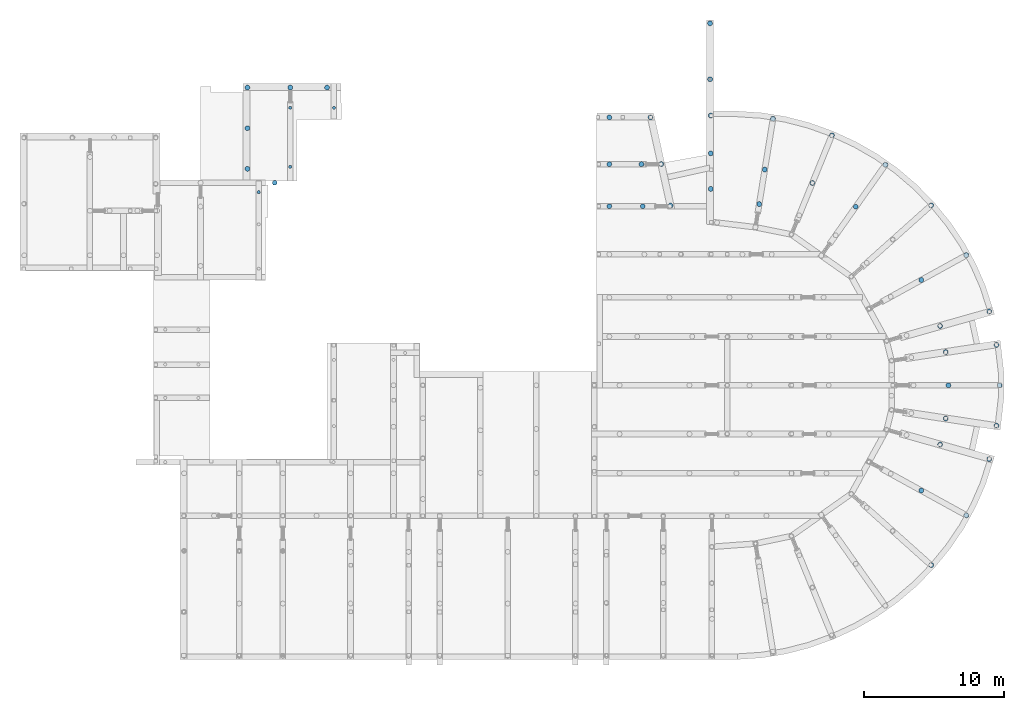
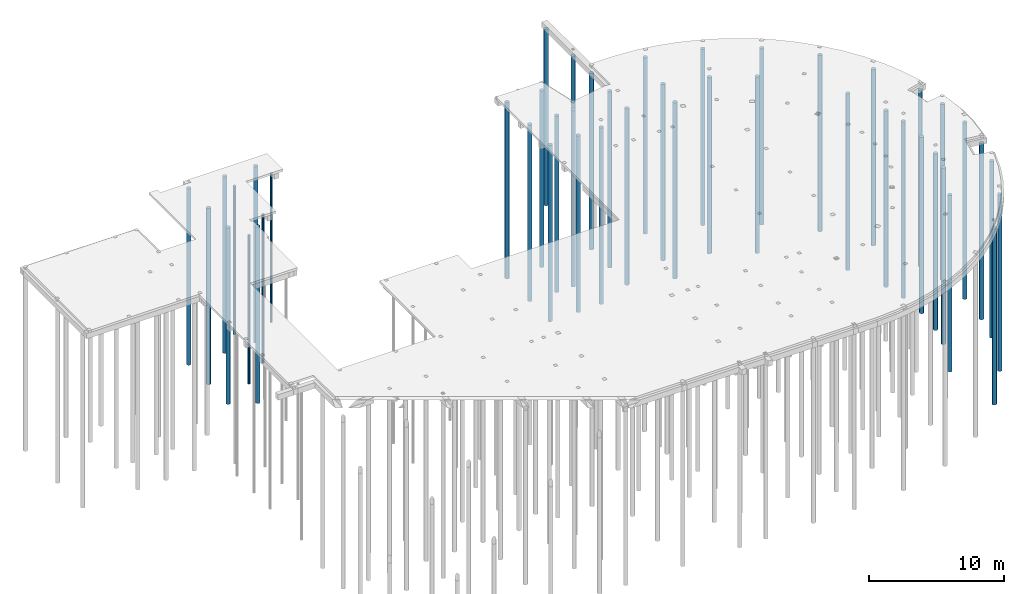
# One storey, part 3 of 22: 46 piles.
"""IFC2X3 building model written with IfcOpenShell, lengths in millimetres."""

from ifc_helpers import new_model, si_unit, frame, origin_with_axes, origin_2d_with_axis, place, context, subcontext, project, spatial, circle, extrude, clip, halfspace, material, element, save


model = new_model("IFC2X3")

# Units and contexts
model_context = context("Model", 3, precision=1e-05, world=origin_with_axes())
body_context = subcontext(model_context, "Body", "Model", "MODEL_VIEW")
ifc_project = project(units=[si_unit("LENGTHUNIT", "METRE", prefix="MILLI"), si_unit("AREAUNIT", "SQUARE_METRE"), si_unit("VOLUMEUNIT", "CUBIC_METRE"), si_unit("MASSUNIT", "GRAM", prefix="KILO"), si_unit("TIMEUNIT", "SECOND"), si_unit("PLANEANGLEUNIT", "RADIAN"), si_unit("SOLIDANGLEUNIT", "STERADIAN"), si_unit("THERMODYNAMICTEMPERATUREUNIT", "DEGREE_CELSIUS"), si_unit("LUMINOUSINTENSITYUNIT", "LUMEN")], contexts=[model_context])

# Site, building, storey
site_placement = place(None, origin_with_axes())
site = spatial("IfcSite", under=ifc_project, at=site_placement, Name="Undefined", CompositionType="ELEMENT")
building_placement = place(site_placement, origin_with_axes())
building = spatial("IfcBuilding", under=site, at=building_placement, Name="Undefined", CompositionType="ELEMENT")
storey_placement = place(building_placement, origin_with_axes())
storey = spatial("IfcBuildingStorey", under=building, at=storey_placement, Name="Undefined", CompositionType="ELEMENT", Elevation=0.0)

# Piles
ifc_material = material(Name="CONCRETE/C28/35(prefab)")
pile_1_placement = place(storey_placement, frame((16095.0759531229, 35117.0884487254, -770.0), z_axis=(0.0, 1.0, 0.0), x_axis=(0.0, 0.0, -1.0)))
element("IfcPile", 1, at=pile_1_placement, inside=storey, material=ifc_material, Name="FUNDERINGSPAAL", ConstructionType="NOTDEFINED", PredefinedType="NOTDEFINED", context=body_context, shape_type="Clipping", body=[
    clip(extrude(circle(Radius=175.0, at=origin_2d_with_axis()), frame((15900.0, 0.0, 0.0), z_axis=(-1.0, 0.0, 0.0), x_axis=(0.0, -1.0, 0.0)), (0.0, 0.0, 1.0), 15900.0), halfspace(frame((0.0, 175.0000000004, -175.000000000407), z_axis=(-1.0, 0.0, 0.0), x_axis=(0.0, 0.0, 1.0)), False)),
])
for number, where, z_axis, x_axis in (
    (2, (19159.1586668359, 39488.7542724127, -770.0), (0.0, 1.0, 0.0), (0.0, 0.0, -1.0)),
    (3, (22291.596845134, 39488.7554560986, -770.0), (0.0, 1.0, 0.0), (0.0, 0.0, -1.0)),
):
    element("IfcPile", number, at=place(storey_placement, frame(where, z_axis=z_axis, x_axis=x_axis)), inside=storey, material=ifc_material, Name="FUNDERINGSPAAL", ConstructionType="NOTDEFINED", PredefinedType="NOTDEFINED", context=body_context, shape_type="Clipping", body=[
        clip(extrude(circle(Radius=109.5, at=origin_2d_with_axis()), frame((13400.0, 0.0, 0.0), z_axis=(-1.0, 0.0, 0.0), x_axis=(0.0, -1.0, 0.0)), (0.0, 0.0, 1.0), 13400.0), halfspace(frame((0.0, 109.500000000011, -109.500000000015), z_axis=(-1.0, 0.0, 0.0), x_axis=(0.0, 0.0, 1.0)), False)),
    ])
for number, where, z_axis, x_axis in (
    (4, (16095.075551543, 38027.0884487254, -770.0), (0.0, 1.0, 0.0), (0.0, 0.0, -1.0)),
    (5, (16095.0751497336, 40938.7504943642, -770.0), (0.0, 1.0, 0.0), (0.0, 0.0, -1.0)),
    (6, (19159.1590581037, 40938.7147485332, -770.0), (-0.999999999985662, 5.35500000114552e-06, 0.0), (0.0, 0.0, -1.0)),
):
    element("IfcPile", number, at=place(storey_placement, frame(where, z_axis=z_axis, x_axis=x_axis)), inside=storey, material=ifc_material, Name="FUNDERINGSPAAL", ConstructionType="NOTDEFINED", PredefinedType="NOTDEFINED", context=body_context, shape_type="Clipping", body=[
        clip(extrude(circle(Radius=175.0, at=origin_2d_with_axis()), frame((15900.0, 0.0, 0.0), z_axis=(-1.0, 0.0, 0.0), x_axis=(0.0, -1.0, 0.0)), (0.0, 0.0, 1.0), 15900.0), halfspace(frame((0.0, 175.0000000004, -175.000000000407), z_axis=(-1.0, 0.0, 0.0), x_axis=(0.0, 0.0, 1.0)), False)),
    ])
pile_2_placement = place(storey_placement, frame((19159.1600193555, 35262.1307373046, -770.0), z_axis=(0.0, 1.0, 0.0), x_axis=(0.0, 0.0, -1.0)))
element("IfcPile", 7, at=pile_2_placement, inside=storey, material=ifc_material, Name="FUNDERINGSPAAL", ConstructionType="NOTDEFINED", PredefinedType="NOTDEFINED", context=body_context, shape_type="Clipping", body=[
    clip(extrude(circle(Radius=109.5, at=origin_2d_with_axis()), frame((13400.0, 0.0, 0.0), z_axis=(-1.0, 0.0, 0.0), x_axis=(0.0, -1.0, 0.0)), (0.0, 0.0, 1.0), 13400.0), halfspace(frame((0.0, 109.500000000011, -109.500000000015), z_axis=(-1.0, 0.0, 0.0), x_axis=(0.0, 0.0, 1.0)), False)),
])
pile_3_placement = place(storey_placement, frame((21799.6590580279, 40938.7006086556, -770.0), z_axis=(-0.999999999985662, 5.35500000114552e-06, 0.0), x_axis=(0.0, 0.0, -1.0)))
element("IfcPile", 8, at=pile_3_placement, inside=storey, material=ifc_material, Name="FUNDERINGSPAAL", ConstructionType="NOTDEFINED", PredefinedType="NOTDEFINED", context=body_context, shape_type="Clipping", body=[
    clip(extrude(circle(Radius=175.0, at=origin_2d_with_axis()), frame((15900.0, 0.0, 0.0), z_axis=(-1.0, 0.0, 0.0), x_axis=(0.0, -1.0, 0.0)), (0.0, 0.0, 1.0), 15900.0), halfspace(frame((0.0, 175.0000000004, -175.000000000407), z_axis=(-1.0, 0.0, 0.0), x_axis=(0.0, 0.0, 1.0)), False)),
])
pile_4_placement = place(storey_placement, frame((16906.9429795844, 33447.108072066, -770.0), z_axis=(0.0, 1.0, 0.0), x_axis=(0.0, 0.0, -1.0)))
element("IfcPile", 9, at=pile_4_placement, inside=storey, material=ifc_material, Name="FUNDERINGSPAAL", ConstructionType="NOTDEFINED", PredefinedType="NOTDEFINED", context=body_context, shape_type="Clipping", body=[
    clip(extrude(circle(Radius=109.5, at=origin_2d_with_axis()), frame((13400.0, 0.0, 0.0), z_axis=(-1.0, 0.0, 0.0), x_axis=(0.0, -1.0, 0.0)), (0.0, 0.0, 1.0), 13400.0), halfspace(frame((0.0, 109.500000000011, -109.500000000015), z_axis=(-1.0, 0.0, 0.0), x_axis=(0.0, 0.0, 1.0)), False)),
])
for number, where, z_axis, x_axis in (
    (10, (18049.7635959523, 34117.1156717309, -770.0), (-0.999999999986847, -5.12899999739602e-06, 0.0), (0.0, 0.0, -1.0)),
    (11, (65067.522338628, 6735.81377767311, -770.000000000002), (0.700439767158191, 0.713711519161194, 0.0), (0.0, 0.0, -1.0)),
    (12, (67577.4497804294, 10303.4870565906, -770.0), (0.481227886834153, 0.876595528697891, 0.0), (0.0, 0.0, -1.0)),
    (13, (69219.0399387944, 14325.0911946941, -770.0), (0.303991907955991, 0.952674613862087, 0.0), (0.0, 0.0, -1.0)),
    (14, (69738.8478505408, 16728.3697297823, -770.0), (0.115783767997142, 0.993274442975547, 0.0), (0.0, 0.0, -1.0)),
    (15, (69977.02269106, 19616.0260782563, -770.0), (-0.0001970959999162, 0.999999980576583, 0.0), (0.0, 0.0, -1.0)),
    (16, (69738.928843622, 22499.6704870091, -770.0), (-0.11613566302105, 0.993233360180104, 0.0), (0.0, 0.0, -1.0)),
    (17, (69220.5267910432, 24902.4491857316, -770.0), (0.303991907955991, -0.952674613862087, 0.0), (0.0, 0.0, -1.0)),
    (18, (67570.2559236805, 28941.8171349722, -770.0), (0.481227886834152, -0.876595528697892, 0.0), (0.0, 0.0, -1.0)),
    (19, (65061.2828468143, 32502.7439382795, -770.000000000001), (0.700439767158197, -0.713711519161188, 0.0), (0.0, 0.0, -1.0)),
    (20, (61781.6678489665, 35406.2622827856, -770.000000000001), (0.817057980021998, -0.576555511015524, 0.0), (0.0, 0.0, -1.0)),
    (21, (57958.2647922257, 37517.7727050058, -769.999999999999), (0.941071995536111, -0.338206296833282, 0.0), (0.0, 0.0, -1.0)),
    (22, (53733.7545727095, 38700.740768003, -770.000000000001), (0.987436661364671, -0.158015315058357, 0.0), (0.0, 0.0, -1.0)),
    (23, (65701.8610218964, 15372.2186860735, -770.0), (0.962245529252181, -0.272182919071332, 0.0), (0.0, 0.0, -1.0)),
    (24, (66109.6728436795, 17241.090100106, -770.0), (-0.988598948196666, 0.150572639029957, 0.0), (0.0, 0.0, -1.0)),
    (25, (66105.6214595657, 21995.7872382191, -770.0), (-0.988598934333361, -0.150572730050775, 0.0), (0.0, 0.0, -1.0)),
    (26, (65703.932205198, 23860.5671734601, -770.0), (0.962245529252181, 0.27218291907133, 0.0), (0.0, 0.0, -1.0)),
    (27, (56555.4299697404, 34102.9844903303, -770.0), (-0.377505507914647, -0.92600733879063, 0.0), (0.0, 0.0, -1.0)),
    (28, (53145.2603416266, 35060.7197424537, -770.0), (-0.159664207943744, -0.987171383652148, 0.0), (0.0, 0.0, -1.0)),
    (29, (52746.1601185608, 32593.1640861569, -770.0), (-0.159664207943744, -0.987171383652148, 0.0), (0.0, 0.0, -1.0)),
    (30, (59662.9471217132, 32402.5675933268, -770.0), (-0.576253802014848, -0.817270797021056, 0.0), (0.0, 0.0, -1.0)),
    (31, (64355.7413582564, 27156.2745186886, -770.0), (-0.876201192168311, -0.481945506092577, 0.0), (0.0, 0.0, -1.0)),
    (32, (66292.6188971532, 19616.0599047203, -770.0), (-1.0, 0.0, 0.0), (0.0, 0.0, -1.0)),
    (33, (64351.4748927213, 12077.9865735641, -770.0), (-0.876224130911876, 0.481903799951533, 0.0), (0.0, 0.0, -1.0)),
    (34, (42013.0004882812, 32438.742046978, -770.0), (-1.0, 0.0, 0.0), (0.0, 0.0, -1.0)),
    (35, (42013.0004882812, 35452.0701223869, -770.0), (-1.0, 0.0, 0.0), (0.0, 0.0, -1.0)),
    (36, (42012.9995603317, 38802.0689878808, -770.0), (-1.0, 0.0, 0.0), (0.0, 0.0, -1.0)),
    (37, (44963.8387516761, 38802.0698052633, -770.0), (-1.0, 0.0, 0.0), (0.0, 0.0, -1.0)),
    (38, (45734.271711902, 35461.0880278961, -770.0), (0.216757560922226, -0.976225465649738, 0.0), (0.0, 0.0, -1.0)),
    (39, (46398.2499288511, 32488.742046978, -770.0), (-1.0, 0.0, 0.0), (0.0, 0.0, -1.0)),
    (40, (44408.5446978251, 32438.742046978, -770.0), (-1.0, 0.0, 0.0), (0.0, 0.0, -1.0)),
    (41, (44310.4762634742, 35452.0701223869, -770.0), (-1.0, 0.0, 0.0), (0.0, 0.0, -1.0)),
    (42, (49226.603314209, 45534.3009584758, -770.0), (0.0, 1.0, 0.0), (0.0, 0.0, -1.0)),
    (43, (49226.603314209, 41534.3009584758, -770.0), (0.0, 1.0, 0.0), (0.0, 0.0, -1.0)),
    (44, (49276.603314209, 38927.2788221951, -770.0), (0.0, 1.0, 0.0), (0.0, 0.0, -1.0)),
    (45, (49276.603314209, 36227.7889251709, -770.0), (0.0, 1.0, 0.0), (0.0, 0.0, -1.0)),
    (46, (49276.603314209, 33677.7889251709, -770.0), (0.0, 1.0, 0.0), (0.0, 0.0, -1.0)),
):
    element("IfcPile", number, at=place(storey_placement, frame(where, z_axis=z_axis, x_axis=x_axis)), inside=storey, material=ifc_material, Name="FUNDERINGSPAAL", ConstructionType="NOTDEFINED", PredefinedType="NOTDEFINED", context=body_context, shape_type="Clipping", body=[
        clip(extrude(circle(Radius=175.0, at=origin_2d_with_axis()), frame((15900.0, 0.0, 0.0), z_axis=(-1.0, 0.0, 0.0), x_axis=(0.0, -1.0, 0.0)), (0.0, 0.0, 1.0), 15900.0), halfspace(frame((0.0, 175.0000000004, -175.000000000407), z_axis=(-1.0, 0.0, 0.0), x_axis=(0.0, 0.0, 1.0)), False)),
    ])

save(model, "model.ifc")
